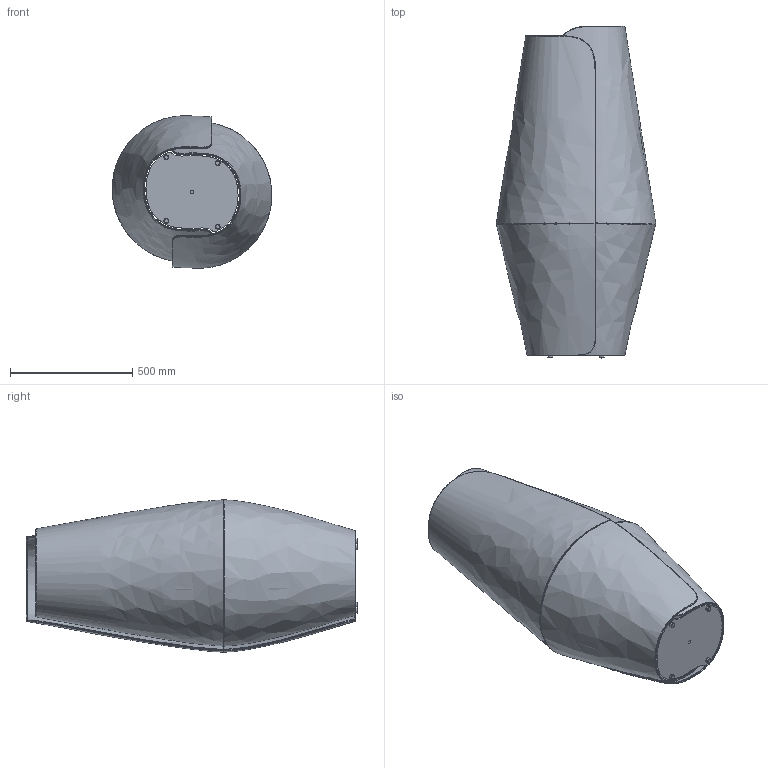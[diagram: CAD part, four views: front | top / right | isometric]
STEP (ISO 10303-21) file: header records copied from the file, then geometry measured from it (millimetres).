
FILE_DESCRIPTION (( 'STEP AP203' ), '1' );
FILE_NAME ('Volute - 1400 Floor Lamp.STEP', '2023-03-30T06:36:36', ( '' ), ( '' ), 'SwSTEP 2.0', 'SolidWorks 2017', '' );
FILE_SCHEMA (( 'CONFIG_CONTROL_DESIGN' ));
Length unit declared in the file: millimetre
Products named in the file (1): Volute - 1400 Floor Lamp
Bounding box: 654.62 x 1360 x 624.99 mm (x, y, z)
Volume: 13788625.1 mm3; surface area: 5527063 mm2
Topology: 5 solids, 5 shells, 190 faces, 462 edges, 278 vertices
Faces by surface type: bspline 111, plane 31, cylinder 26, torus 18, sphere 2, cone 2
Entity records: 80618 total; most frequent: CARTESIAN_POINT 77122, ORIENTED_EDGE 898, EDGE_CURVE 449, DIRECTION 400, B_SPLINE_CURVE_WITH_KNOTS 296, VERTEX_POINT 275, EDGE_LOOP 196, ADVANCED_FACE 190
